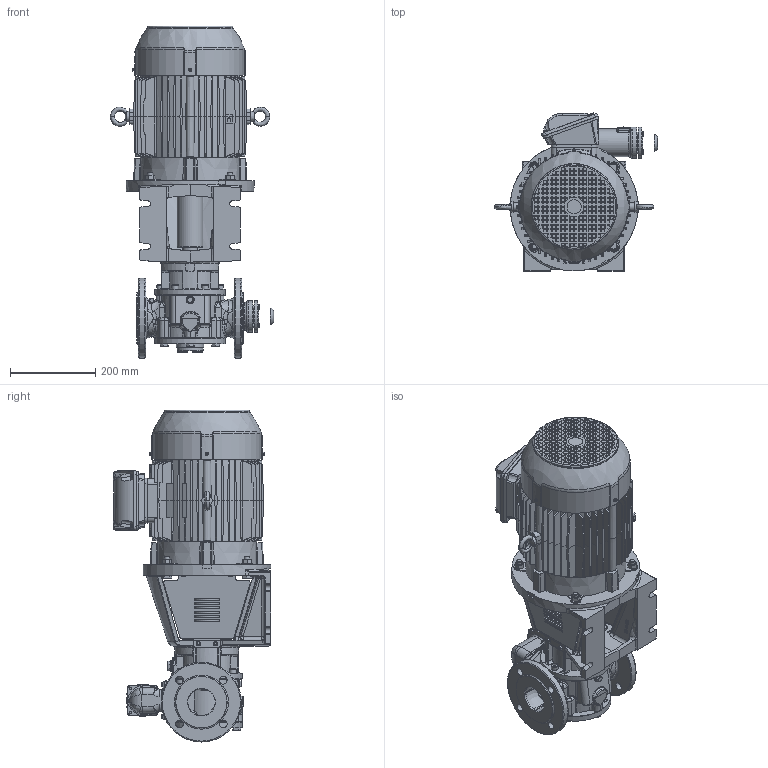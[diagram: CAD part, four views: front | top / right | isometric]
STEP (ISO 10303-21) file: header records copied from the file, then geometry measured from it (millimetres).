
FILE_DESCRIPTION(/* description */ (''),/* implementation_level */ '2;1');
FILE_NAME(/* name */ 'C:\V\JPP\Designs\GEAR PUMPS\PRODUCT ENGINEERING\EUROPE\TG BLOC\TG BLOC_23-65_R5_O_RV1-_132S-STEP.stp',/* time_stamp */ '2021-03-18T15:26:04+01:00',/* author */ ('A77THR'),/* organization */ (''),/* preprocessor_version */ 'ST-DEVELOPER v18.1',/* originating_system */ 'Autodesk Inventor 2020',/* authorisation */ '');
FILE_SCHEMA (('AUTOMOTIVE_DESIGN { 1 0 10303 214 3 1 1 }'));
Products named in the file (1): TG BLOC_23-65_R5_O_RV1-_132S
Bounding box: 383 x 370.15 x 778.7 mm (x, y, z)
Volume: 26218453.7 mm3; surface area: 1585420.6 mm2
Topology: 1 solids, 1 shells, 5564 faces, 14140 edges, 8888 vertices
Faces by surface type: plane 3067, bspline 1055, cylinder 784, cone 432, torus 169, sphere 57
Full cylindrical faces by diameter (mm): 4 x1, 4.5 x4, 4.917 x4, 5 x5, 5.459 x22, 6 x25, 6.647 x1, 7 x22, 8.376 x5, 8.5 x2, 8.7 x22, 9.188 x4, 10 x12, 10.5 x1, 11.445 x2, 11.5 x4, 12 x8, 13 x4, 15.011 x3, 15.4 x10, 16 x10, 17.2 x4, 17.9 x3, 18 x11, 19 x3, 21.939 x1, 25.9 x1, 26 x1, 29.4 x1, 30 x1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
Entity records: 233654 total; most frequent: CARTESIAN_POINT 102625, ORIENTED_EDGE 28002, DIRECTION 23334, EDGE_CURVE 14001, VERTEX_POINT 8888, AXIS2_PLACEMENT_3D 8021, LINE 7292, VECTOR 7292
